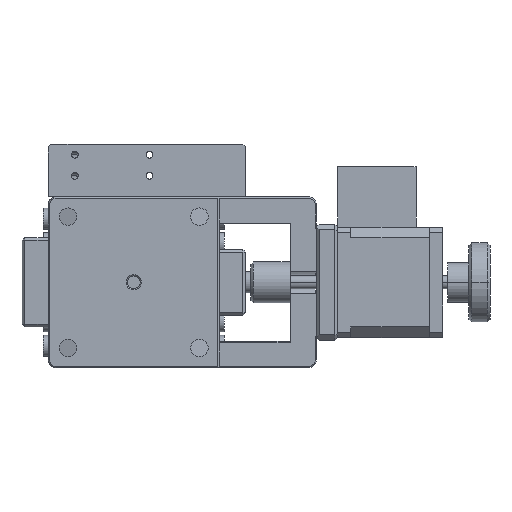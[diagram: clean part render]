
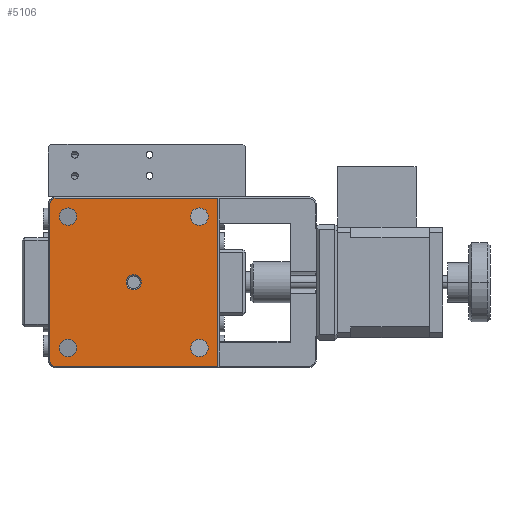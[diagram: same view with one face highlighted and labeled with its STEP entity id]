
A CAD part, front view. The second image highlights one B-rep face of the part: STEP entity #5106.
In plain terms, the highlighted planar face has unit normal (0, -1, 0).
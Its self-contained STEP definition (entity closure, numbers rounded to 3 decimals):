
#233 = CARTESIAN_POINT ( 'NONE',  ( 32., -75., 64.5 ) ) ;
#396 = DIRECTION ( 'NONE',  ( 0., 0., -1. ) ) ;
#513 = LINE ( 'NONE', #18034, #3880 ) ;
#532 = CARTESIAN_POINT ( 'NONE',  ( -29.5, -75., 3. ) ) ;
#1065 = ORIENTED_EDGE ( 'NONE', *, *, #18272, .T. ) ;
#1271 = ORIENTED_EDGE ( 'NONE', *, *, #4579, .F. ) ;
#1663 = ORIENTED_EDGE ( 'NONE', *, *, #6644, .F. ) ;
#1769 = AXIS2_PLACEMENT_3D ( 'NONE', #19000, #17482, #6704 ) ;
#1977 = ORIENTED_EDGE ( 'NONE', *, *, #20291, .F. ) ;
#2108 = CARTESIAN_POINT ( 'NONE',  ( -25., -75., 7.5 ) ) ;
#2109 = DIRECTION ( 'NONE',  ( 0., 1., 0. ) ) ;
#2221 = CIRCLE ( 'NONE', #6323, 3.3 ) ;
#2345 = ORIENTED_EDGE ( 'NONE', *, *, #12952, .F. ) ;
#2406 = DIRECTION ( 'NONE',  ( 0., 0., 1. ) ) ;
#3040 = VERTEX_POINT ( 'NONE', #20861 ) ;
#3106 = VERTEX_POINT ( 'NONE', #7475 ) ;
#3512 = DIRECTION ( 'NONE',  ( 0., 0., 1. ) ) ;
#3588 = AXIS2_PLACEMENT_3D ( 'NONE', #18993, #15259, #13420 ) ;
#3633 = ORIENTED_EDGE ( 'NONE', *, *, #13771, .F. ) ;
#3768 = FACE_BOUND ( 'NONE', #14107, .T. ) ;
#3827 = LINE ( 'NONE', #5697, #21157 ) ;
#3880 = VECTOR ( 'NONE', #396, 1000. ) ;
#3948 = VECTOR ( 'NONE', #12612, 1000. ) ;
#3976 = DIRECTION ( 'NONE',  ( 0., 0., 1. ) ) ;
#4143 = CARTESIAN_POINT ( 'NONE',  ( 0., -75., 32.5 ) ) ;
#4232 = CARTESIAN_POINT ( 'NONE',  ( -32., -75., 3. ) ) ;
#4306 = VERTEX_POINT ( 'NONE', #6316 ) ;
#4342 = AXIS2_PLACEMENT_3D ( 'NONE', #5978, #19873, #18028 ) ;
#4374 = AXIS2_PLACEMENT_3D ( 'NONE', #2108, #14422, #3512 ) ;
#4579 = EDGE_CURVE ( 'NONE', #8083, #4306, #17678, .T. ) ;
#4614 = DIRECTION ( 'NONE',  ( 0., 0., 1. ) ) ;
#4687 = ORIENTED_EDGE ( 'NONE', *, *, #14840, .T. ) ;
#4718 = CARTESIAN_POINT ( 'NONE',  ( 25., -75., 4.2 ) ) ;
#4744 = CARTESIAN_POINT ( 'NONE',  ( -29.5, -75., 62. ) ) ;
#4864 = CARTESIAN_POINT ( 'NONE',  ( -25., -75., 4.2 ) ) ;
#5090 = DIRECTION ( 'NONE',  ( 0., 1., 0. ) ) ;
#5106 = ADVANCED_FACE ( 'NONE', ( #14543, #3768, #17920, #7712, #18371, #16397 ), #19657, .F. ) ;
#5338 = CARTESIAN_POINT ( 'NONE',  ( -32., -75., 62. ) ) ;
#5452 = VERTEX_POINT ( 'NONE', #22560 ) ;
#5697 = CARTESIAN_POINT ( 'NONE',  ( -32.5, -75., 0.5 ) ) ;
#5956 = CARTESIAN_POINT ( 'NONE',  ( -25., -75., 7.5 ) ) ;
#5978 = CARTESIAN_POINT ( 'NONE',  ( -32.5, -75., 65. ) ) ;
#6023 = DIRECTION ( 'NONE',  ( 0., 1., 0. ) ) ;
#6185 = AXIS2_PLACEMENT_3D ( 'NONE', #17145, #8110, #4614 ) ;
#6316 = CARTESIAN_POINT ( 'NONE',  ( -29.5, -75., 64.5 ) ) ;
#6323 = AXIS2_PLACEMENT_3D ( 'NONE', #5956, #2109, #7807 ) ;
#6644 = EDGE_CURVE ( 'NONE', #19318, #8083, #19346, .T. ) ;
#6704 = DIRECTION ( 'NONE',  ( 0., 0., 1. ) ) ;
#6866 = EDGE_LOOP ( 'NONE', ( #8605, #4687 ) ) ;
#7093 = DIRECTION ( 'NONE',  ( 0., 0., -1. ) ) ;
#7149 = CARTESIAN_POINT ( 'NONE',  ( 25., -75., 60.8 ) ) ;
#7309 = CARTESIAN_POINT ( 'NONE',  ( 0., -75., 32.5 ) ) ;
#7350 = ORIENTED_EDGE ( 'NONE', *, *, #8604, .T. ) ;
#7475 = CARTESIAN_POINT ( 'NONE',  ( -25., -75., 10.8 ) ) ;
#7712 = FACE_BOUND ( 'NONE', #18789, .T. ) ;
#7807 = DIRECTION ( 'NONE',  ( 0., 0., 1. ) ) ;
#7840 = VERTEX_POINT ( 'NONE', #9669 ) ;
#8083 = VERTEX_POINT ( 'NONE', #5338 ) ;
#8110 = DIRECTION ( 'NONE',  ( 0., 1., 0. ) ) ;
#8174 = CARTESIAN_POINT ( 'NONE',  ( -25., -75., 60.8 ) ) ;
#8177 = AXIS2_PLACEMENT_3D ( 'NONE', #7309, #10685, #7093 ) ;
#8394 = VERTEX_POINT ( 'NONE', #233 ) ;
#8604 = EDGE_CURVE ( 'NONE', #3040, #16860, #21434, .T. ) ;
#8605 = ORIENTED_EDGE ( 'NONE', *, *, #17067, .T. ) ;
#8656 = CARTESIAN_POINT ( 'NONE',  ( 32., -75., 0.5 ) ) ;
#8678 = DIRECTION ( 'NONE',  ( 0., 0., 1. ) ) ;
#8755 = CARTESIAN_POINT ( 'NONE',  ( -32.5, -75., 64.5 ) ) ;
#8813 = CIRCLE ( 'NONE', #4374, 3.3 ) ;
#8966 = VERTEX_POINT ( 'NONE', #4718 ) ;
#9002 = VERTEX_POINT ( 'NONE', #8656 ) ;
#9275 = CARTESIAN_POINT ( 'NONE',  ( 25., -75., 10.8 ) ) ;
#9669 = CARTESIAN_POINT ( 'NONE',  ( 0., -75., 29.575 ) ) ;
#9860 = DIRECTION ( 'NONE',  ( 0., 1., 0. ) ) ;
#10183 = EDGE_CURVE ( 'NONE', #16860, #3040, #20292, .T. ) ;
#10453 = VERTEX_POINT ( 'NONE', #18970 ) ;
#10549 = VERTEX_POINT ( 'NONE', #11044 ) ;
#10685 = DIRECTION ( 'NONE',  ( 0., -1., 0. ) ) ;
#10954 = AXIS2_PLACEMENT_3D ( 'NONE', #532, #22010, #15151 ) ;
#11032 = ORIENTED_EDGE ( 'NONE', *, *, #19989, .T. ) ;
#11044 = CARTESIAN_POINT ( 'NONE',  ( 25., -75., 54.2 ) ) ;
#11045 = VERTEX_POINT ( 'NONE', #9275 ) ;
#11052 = DIRECTION ( 'NONE',  ( 0., 1., 0. ) ) ;
#11477 = AXIS2_PLACEMENT_3D ( 'NONE', #4143, #12962, #14361 ) ;
#11517 = ORIENTED_EDGE ( 'NONE', *, *, #16803, .F. ) ;
#11534 = ORIENTED_EDGE ( 'NONE', *, *, #13206, .T. ) ;
#11660 = ORIENTED_EDGE ( 'NONE', *, *, #10183, .T. ) ;
#11699 = AXIS2_PLACEMENT_3D ( 'NONE', #15056, #6023, #2406 ) ;
#12123 = LINE ( 'NONE', #8755, #18030 ) ;
#12179 = AXIS2_PLACEMENT_3D ( 'NONE', #19977, #11052, #3976 ) ;
#12244 = DIRECTION ( 'NONE',  ( 1., 0., 0. ) ) ;
#12543 = EDGE_LOOP ( 'NONE', ( #11534, #1065 ) ) ;
#12612 = DIRECTION ( 'NONE',  ( 0., 0., 1. ) ) ;
#12842 = AXIS2_PLACEMENT_3D ( 'NONE', #4744, #5090, #8678 ) ;
#12952 = EDGE_CURVE ( 'NONE', #5452, #7840, #21484, .T. ) ;
#12962 = DIRECTION ( 'NONE',  ( 0., -1., 0. ) ) ;
#13206 = EDGE_CURVE ( 'NONE', #3106, #20043, #2221, .T. ) ;
#13420 = DIRECTION ( 'NONE',  ( 0., 0., 1. ) ) ;
#13607 = EDGE_CURVE ( 'NONE', #7840, #5452, #14100, .T. ) ;
#13771 = EDGE_CURVE ( 'NONE', #9002, #10453, #3827, .T. ) ;
#13869 = EDGE_LOOP ( 'NONE', ( #20684, #2345 ) ) ;
#13962 = CIRCLE ( 'NONE', #3588, 3.3 ) ;
#14037 = CIRCLE ( 'NONE', #12179, 3.3 ) ;
#14100 = CIRCLE ( 'NONE', #8177, 2.925 ) ;
#14107 = EDGE_LOOP ( 'NONE', ( #11660, #7350 ) ) ;
#14361 = DIRECTION ( 'NONE',  ( 0., 0., -1. ) ) ;
#14422 = DIRECTION ( 'NONE',  ( 0., 1., 0. ) ) ;
#14458 = VERTEX_POINT ( 'NONE', #7149 ) ;
#14543 = FACE_BOUND ( 'NONE', #13869, .T. ) ;
#14840 = EDGE_CURVE ( 'NONE', #10549, #14458, #14037, .T. ) ;
#15056 = CARTESIAN_POINT ( 'NONE',  ( 25., -75., 7.5 ) ) ;
#15151 = DIRECTION ( 'NONE',  ( 0., 0., 1. ) ) ;
#15259 = DIRECTION ( 'NONE',  ( 0., 1., 0. ) ) ;
#15401 = CIRCLE ( 'NONE', #11699, 3.3 ) ;
#15734 = CARTESIAN_POINT ( 'NONE',  ( -32., -75., 65. ) ) ;
#15833 = EDGE_LOOP ( 'NONE', ( #1977, #3633, #16919, #11517, #1271, #1663 ) ) ;
#16397 = FACE_OUTER_BOUND ( 'NONE', #15833, .T. ) ;
#16732 = EDGE_CURVE ( 'NONE', #11045, #8966, #13962, .T. ) ;
#16803 = EDGE_CURVE ( 'NONE', #4306, #8394, #12123, .T. ) ;
#16860 = VERTEX_POINT ( 'NONE', #8174 ) ;
#16919 = ORIENTED_EDGE ( 'NONE', *, *, #22913, .F. ) ;
#17067 = EDGE_CURVE ( 'NONE', #14458, #10549, #19874, .T. ) ;
#17145 = CARTESIAN_POINT ( 'NONE',  ( 25., -75., 57.5 ) ) ;
#17482 = DIRECTION ( 'NONE',  ( 0., 1., 0. ) ) ;
#17678 = CIRCLE ( 'NONE', #12842, 2.5 ) ;
#17920 = FACE_BOUND ( 'NONE', #6866, .T. ) ;
#17988 = CIRCLE ( 'NONE', #10954, 2.5 ) ;
#18028 = DIRECTION ( 'NONE',  ( 1., 0., 0. ) ) ;
#18030 = VECTOR ( 'NONE', #12244, 1000. ) ;
#18034 = CARTESIAN_POINT ( 'NONE',  ( 32., -75., 65. ) ) ;
#18272 = EDGE_CURVE ( 'NONE', #20043, #3106, #8813, .T. ) ;
#18324 = DIRECTION ( 'NONE',  ( -1., 0., 0. ) ) ;
#18371 = FACE_BOUND ( 'NONE', #12543, .T. ) ;
#18789 = EDGE_LOOP ( 'NONE', ( #19267, #11032 ) ) ;
#18839 = AXIS2_PLACEMENT_3D ( 'NONE', #20536, #9860, #22518 ) ;
#18970 = CARTESIAN_POINT ( 'NONE',  ( -29.5, -75., 0.5 ) ) ;
#18993 = CARTESIAN_POINT ( 'NONE',  ( 25., -75., 7.5 ) ) ;
#19000 = CARTESIAN_POINT ( 'NONE',  ( -25., -75., 57.5 ) ) ;
#19267 = ORIENTED_EDGE ( 'NONE', *, *, #16732, .T. ) ;
#19318 = VERTEX_POINT ( 'NONE', #4232 ) ;
#19346 = LINE ( 'NONE', #15734, #3948 ) ;
#19657 = PLANE ( 'NONE',  #4342 ) ;
#19873 = DIRECTION ( 'NONE',  ( 0., 1., 0. ) ) ;
#19874 = CIRCLE ( 'NONE', #6185, 3.3 ) ;
#19977 = CARTESIAN_POINT ( 'NONE',  ( 25., -75., 57.5 ) ) ;
#19989 = EDGE_CURVE ( 'NONE', #8966, #11045, #15401, .T. ) ;
#20043 = VERTEX_POINT ( 'NONE', #4864 ) ;
#20291 = EDGE_CURVE ( 'NONE', #10453, #19318, #17988, .T. ) ;
#20292 = CIRCLE ( 'NONE', #1769, 3.3 ) ;
#20536 = CARTESIAN_POINT ( 'NONE',  ( -25., -75., 57.5 ) ) ;
#20684 = ORIENTED_EDGE ( 'NONE', *, *, #13607, .F. ) ;
#20861 = CARTESIAN_POINT ( 'NONE',  ( -25., -75., 54.2 ) ) ;
#21157 = VECTOR ( 'NONE', #18324, 1000. ) ;
#21434 = CIRCLE ( 'NONE', #18839, 3.3 ) ;
#21484 = CIRCLE ( 'NONE', #11477, 2.925 ) ;
#22010 = DIRECTION ( 'NONE',  ( 0., 1., 0. ) ) ;
#22518 = DIRECTION ( 'NONE',  ( 0., 0., 1. ) ) ;
#22560 = CARTESIAN_POINT ( 'NONE',  ( 0., -75., 35.425 ) ) ;
#22913 = EDGE_CURVE ( 'NONE', #8394, #9002, #513, .T. ) ;
